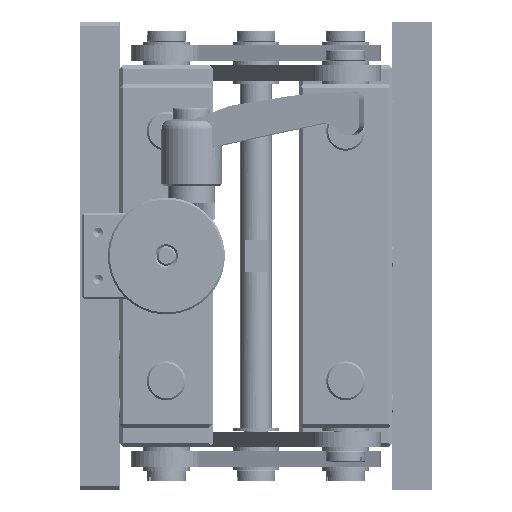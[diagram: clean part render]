
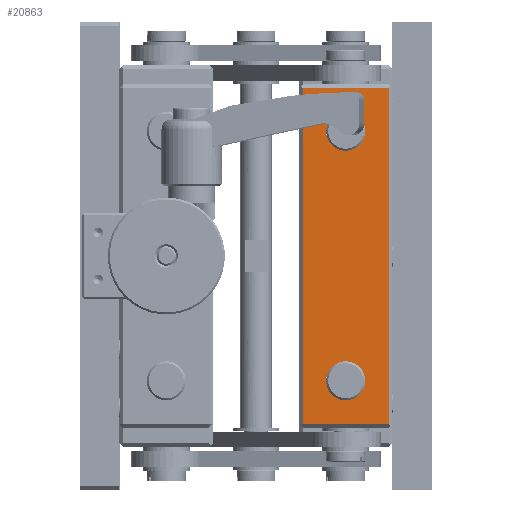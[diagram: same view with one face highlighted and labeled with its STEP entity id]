
A CAD part, left-side view. The second image highlights one B-rep face of the part: STEP entity #20863.
In plain terms, the highlighted planar face has unit normal (-1, 0, 0).
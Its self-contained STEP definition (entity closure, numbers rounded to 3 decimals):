
#2368 = LINE ( 'NONE', #37829, #66556 ) ;
#3360 = VERTEX_POINT ( 'NONE', #42026 ) ;
#3513 = DIRECTION ( 'NONE',  ( 0., 0., -1. ) ) ;
#7976 = CARTESIAN_POINT ( 'NONE',  ( -90., -57.651, 43. ) ) ;
#9291 = ORIENTED_EDGE ( 'NONE', *, *, #71396, .T. ) ;
#11170 = AXIS2_PLACEMENT_3D ( 'NONE', #34365, #40891, #46291 ) ;
#11862 = VECTOR ( 'NONE', #33203, 1000. ) ;
#13001 = LINE ( 'NONE', #7976, #16440 ) ;
#16440 = VECTOR ( 'NONE', #54615, 1000. ) ;
#16945 = FACE_OUTER_BOUND ( 'NONE', #65912, .T. ) ;
#17720 = CARTESIAN_POINT ( 'NONE',  ( -90., -56.651, 44. ) ) ;
#18005 = CARTESIAN_POINT ( 'NONE',  ( -90., -34.651, 43. ) ) ;
#20452 = ORIENTED_EDGE ( 'NONE', *, *, #52260, .T. ) ;
#20863 = ADVANCED_FACE ( 'NONE', ( #53172, #63946, #16945 ), #76316, .F. ) ;
#22012 = CARTESIAN_POINT ( 'NONE',  ( -90., -56.651, -43. ) ) ;
#22519 = ORIENTED_EDGE ( 'NONE', *, *, #33492, .T. ) ;
#23530 = DIRECTION ( 'NONE',  ( 0., 0., -1. ) ) ;
#23811 = CARTESIAN_POINT ( 'NONE',  ( -90., -56.651, 43. ) ) ;
#23894 = LINE ( 'NONE', #17720, #50493 ) ;
#25409 = DIRECTION ( 'NONE',  ( -1., 0., 0. ) ) ;
#25602 = VERTEX_POINT ( 'NONE', #30193 ) ;
#26076 = CARTESIAN_POINT ( 'NONE',  ( -90., -45.651, 27. ) ) ;
#28760 = VERTEX_POINT ( 'NONE', #18005 ) ;
#29779 = EDGE_CURVE ( 'NONE', #28760, #25602, #2368, .T. ) ;
#30193 = CARTESIAN_POINT ( 'NONE',  ( -90., -34.651, -43. ) ) ;
#32151 = EDGE_CURVE ( 'NONE', #48972, #48972, #49499, .T. ) ;
#33203 = DIRECTION ( 'NONE',  ( 0., -1., 0. ) ) ;
#33492 = EDGE_CURVE ( 'NONE', #3360, #50207, #23894, .T. ) ;
#34365 = CARTESIAN_POINT ( 'NONE',  ( -90., -45.651, 32. ) ) ;
#35187 = ORIENTED_EDGE ( 'NONE', *, *, #29779, .T. ) ;
#36203 = DIRECTION ( 'NONE',  ( 0., 0., 1. ) ) ;
#37829 = CARTESIAN_POINT ( 'NONE',  ( -90., -34.651, 44. ) ) ;
#38776 = VERTEX_POINT ( 'NONE', #26076 ) ;
#39763 = EDGE_LOOP ( 'NONE', ( #66810 ) ) ;
#40891 = DIRECTION ( 'NONE',  ( -1., 0., 0. ) ) ;
#42026 = CARTESIAN_POINT ( 'NONE',  ( -90., -56.651, -43. ) ) ;
#43197 = CARTESIAN_POINT ( 'NONE',  ( -90., -45.651, -27. ) ) ;
#44376 = EDGE_CURVE ( 'NONE', #38776, #38776, #61673, .T. ) ;
#46291 = DIRECTION ( 'NONE',  ( 0., 0., -1. ) ) ;
#47392 = CARTESIAN_POINT ( 'NONE',  ( -90., -57.651, 44. ) ) ;
#48880 = DIRECTION ( 'NONE',  ( 0., 0., 1. ) ) ;
#48972 = VERTEX_POINT ( 'NONE', #43197 ) ;
#49499 = CIRCLE ( 'NONE', #51972, 5. ) ;
#50207 = VERTEX_POINT ( 'NONE', #23811 ) ;
#50493 = VECTOR ( 'NONE', #36203, 1000. ) ;
#51972 = AXIS2_PLACEMENT_3D ( 'NONE', #60438, #25409, #48880 ) ;
#52260 = EDGE_CURVE ( 'NONE', #50207, #28760, #13001, .T. ) ;
#53172 = FACE_BOUND ( 'NONE', #39763, .T. ) ;
#53490 = EDGE_LOOP ( 'NONE', ( #63643 ) ) ;
#54615 = DIRECTION ( 'NONE',  ( 0., 1., 0. ) ) ;
#60438 = CARTESIAN_POINT ( 'NONE',  ( -90., -45.651, -32. ) ) ;
#61673 = CIRCLE ( 'NONE', #11170, 5. ) ;
#63643 = ORIENTED_EDGE ( 'NONE', *, *, #44376, .F. ) ;
#63946 = FACE_BOUND ( 'NONE', #53490, .T. ) ;
#65912 = EDGE_LOOP ( 'NONE', ( #35187, #9291, #22519, #20452 ) ) ;
#66556 = VECTOR ( 'NONE', #3513, 1000. ) ;
#66810 = ORIENTED_EDGE ( 'NONE', *, *, #32151, .F. ) ;
#67049 = AXIS2_PLACEMENT_3D ( 'NONE', #47392, #75936, #23530 ) ;
#69768 = LINE ( 'NONE', #22012, #11862 ) ;
#71396 = EDGE_CURVE ( 'NONE', #25602, #3360, #69768, .T. ) ;
#75936 = DIRECTION ( 'NONE',  ( 1., 0., 0. ) ) ;
#76316 = PLANE ( 'NONE',  #67049 ) ;
